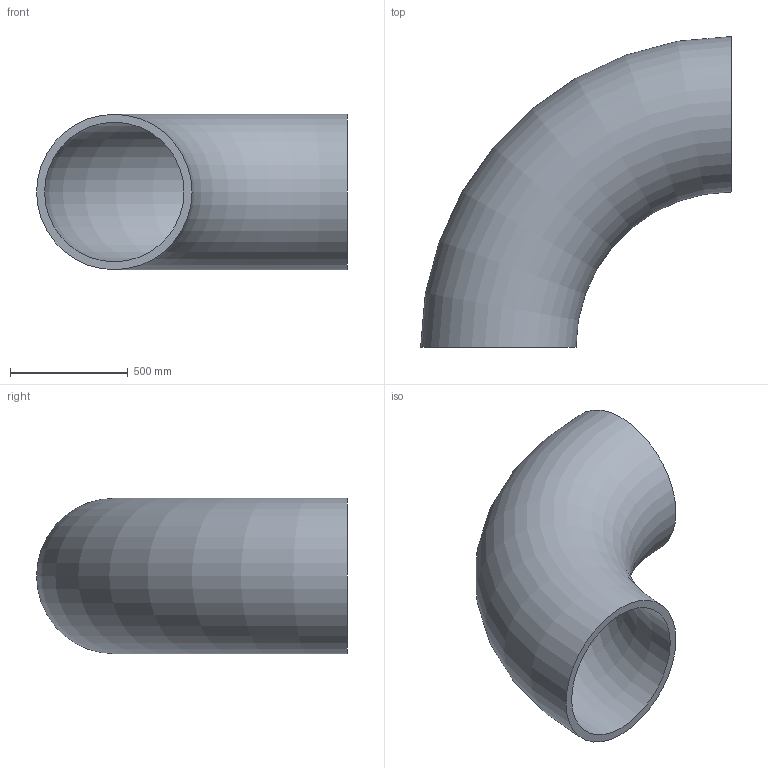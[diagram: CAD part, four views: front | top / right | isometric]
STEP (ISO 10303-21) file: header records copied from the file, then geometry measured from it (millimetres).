
FILE_DESCRIPTION(/* description */ (''),/* implementation_level */ '2;1');
FILE_NAME(/* name */ 'C:\Users\D\Documents\Inventor\HP\JIS\配管\エルボ ロング 90°\Sch80\Elbow-long-90-650A-Sch80.stp',/* time_stamp */ '2022-06-09T18:39:13+09:00',/* author */ ('D'),/* organization */ (''),/* preprocessor_version */ 'ST-DEVELOPER v18',/* originating_system */ 'Autodesk Inventor 2020',/* authorisation */ '');
FILE_SCHEMA (('AUTOMOTIVE_DESIGN { 1 0 10303 214 3 1 1 }'));
Length unit declared in the file: millimetre
Products named in the file (1): Elbow-long-90-15A-SGP
Bounding box: 1320.8 x 1320.8 x 660.4 mm (x, y, z)
Volume: 104111508.6 mm3; surface area: 6258023.2 mm2
Topology: 1 solids, 1 shells, 4 faces, 10 edges, 8 vertices
Faces by surface type: torus 2, plane 2
Entity records: 181 total; most frequent: DIRECTION 30, CARTESIAN_POINT 23, ORIENTED_EDGE 20, AXIS2_PLACEMENT_3D 15, CIRCLE 10, EDGE_CURVE 10, VERTEX_POINT 8, EDGE_LOOP 6
